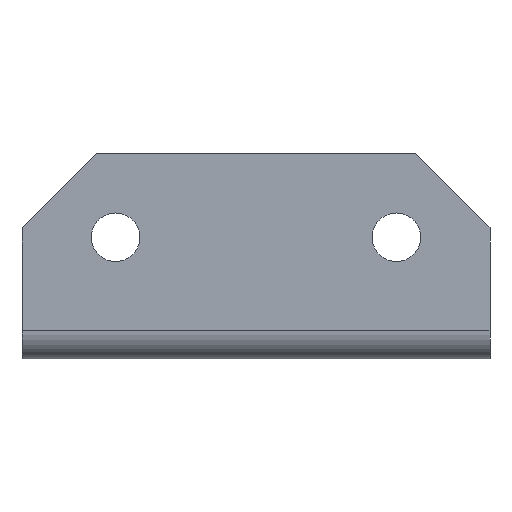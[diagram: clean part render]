
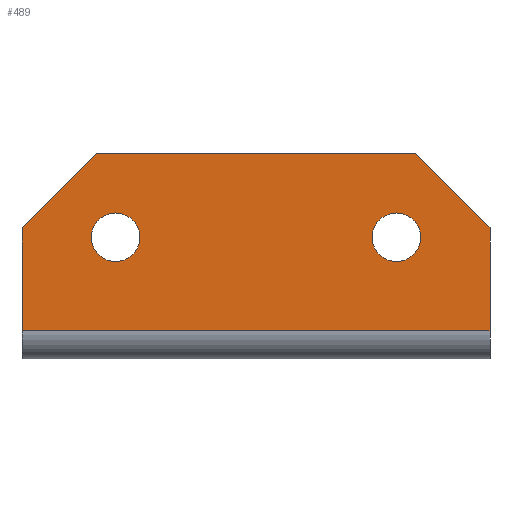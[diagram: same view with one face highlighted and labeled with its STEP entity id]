
A CAD part, front view. The second image highlights one B-rep face of the part: STEP entity #489.
In plain terms, the highlighted planar face has unit normal (0, -1, 0).
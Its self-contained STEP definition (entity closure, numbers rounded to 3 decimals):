
#5 = VECTOR ( 'NONE', #410, 1000. ) ;
#10 = VECTOR ( 'NONE', #405, 1000. ) ;
#14 = AXIS2_PLACEMENT_3D ( 'NONE', #211, #219, #210 ) ;
#29 = AXIS2_PLACEMENT_3D ( 'NONE', #292, #291, #449 ) ;
#73 = FACE_OUTER_BOUND ( 'NONE', #601, .T. ) ;
#77 = AXIS2_PLACEMENT_3D ( 'NONE', #222, #216, #214 ) ;
#79 = VECTOR ( 'NONE', #212, 1000. ) ;
#93 = AXIS2_PLACEMENT_3D ( 'NONE', #201, #170, #204 ) ;
#98 = FACE_BOUND ( 'NONE', #600, .T. ) ;
#99 = FACE_BOUND ( 'NONE', #595, .T. ) ;
#101 = VECTOR ( 'NONE', #409, 1000. ) ;
#107 = AXIS2_PLACEMENT_3D ( 'NONE', #320, #419, #420 ) ;
#108 = VECTOR ( 'NONE', #274, 1000. ) ;
#131 = VECTOR ( 'NONE', #163, 1000. ) ;
#162 = CARTESIAN_POINT ( 'NONE',  ( 42.5, 0., 55. ) ) ;
#163 = DIRECTION ( 'NONE',  ( -1., 0., 0. ) ) ;
#170 = DIRECTION ( 'NONE',  ( 0., -1., 0. ) ) ;
#201 = CARTESIAN_POINT ( 'NONE',  ( 62.5, 0., 0. ) ) ;
#203 = PLANE ( 'NONE',  #93 ) ;
#204 = DIRECTION ( 'NONE',  ( 0., 0., -1. ) ) ;
#205 = LINE ( 'NONE', #213, #79 ) ;
#210 = DIRECTION ( 'NONE',  ( 0., 0., -1. ) ) ;
#211 = CARTESIAN_POINT ( 'NONE',  ( 37.5, 0., 32.5 ) ) ;
#212 = DIRECTION ( 'NONE',  ( -0.707, 0., 0.707 ) ) ;
#213 = CARTESIAN_POINT ( 'NONE',  ( 80., 0., 17.5 ) ) ;
#214 = DIRECTION ( 'NONE',  ( 0., 0., -1. ) ) ;
#216 = DIRECTION ( 'NONE',  ( 0., -1., 0. ) ) ;
#219 = DIRECTION ( 'NONE',  ( 0., -1., 0. ) ) ;
#222 = CARTESIAN_POINT ( 'NONE',  ( -37.5, 0., 32.5 ) ) ;
#256 = CARTESIAN_POINT ( 'NONE',  ( 62.5, 0., 55. ) ) ;
#258 = LINE ( 'NONE', #256, #131 ) ;
#274 = DIRECTION ( 'NONE',  ( 0., 0., 1. ) ) ;
#275 = CARTESIAN_POINT ( 'NONE',  ( 62.5, 0., 0. ) ) ;
#276 = LINE ( 'NONE', #275, #108 ) ;
#281 = CARTESIAN_POINT ( 'NONE',  ( -62.5, 0., 0. ) ) ;
#291 = DIRECTION ( 'NONE',  ( 0., -1., 0. ) ) ;
#292 = CARTESIAN_POINT ( 'NONE',  ( 37.5, 0., 32.5 ) ) ;
#303 = CARTESIAN_POINT ( 'NONE',  ( 37.5, 0., 39. ) ) ;
#305 = CARTESIAN_POINT ( 'NONE',  ( -62.5, 0., 7.6 ) ) ;
#320 = CARTESIAN_POINT ( 'NONE',  ( -37.5, 0., 32.5 ) ) ;
#371 = CARTESIAN_POINT ( 'NONE',  ( -37.5, 0., 39. ) ) ;
#372 = CARTESIAN_POINT ( 'NONE',  ( -62.5, 0., 35. ) ) ;
#380 = CARTESIAN_POINT ( 'NONE',  ( 62.5, 0., 35. ) ) ;
#384 = CARTESIAN_POINT ( 'NONE',  ( -42.5, 0., 55. ) ) ;
#387 = CARTESIAN_POINT ( 'NONE',  ( -37.5, 0., 26. ) ) ;
#390 = CARTESIAN_POINT ( 'NONE',  ( 37.5, 0., 26. ) ) ;
#395 = CARTESIAN_POINT ( 'NONE',  ( 62.5, 0., 7.6 ) ) ;
#403 = CARTESIAN_POINT ( 'NONE',  ( 62.5, 0., 7.6 ) ) ;
#405 = DIRECTION ( 'NONE',  ( -1., 0., 0. ) ) ;
#407 = LINE ( 'NONE', #403, #10 ) ;
#409 = DIRECTION ( 'NONE',  ( 0., 0., 1. ) ) ;
#410 = DIRECTION ( 'NONE',  ( -0.707, 0., -0.707 ) ) ;
#411 = CARTESIAN_POINT ( 'NONE',  ( -17.5, 0., 80. ) ) ;
#414 = LINE ( 'NONE', #411, #5 ) ;
#417 = LINE ( 'NONE', #281, #101 ) ;
#419 = DIRECTION ( 'NONE',  ( 0., -1., 0. ) ) ;
#420 = DIRECTION ( 'NONE',  ( 0., 0., -1. ) ) ;
#449 = DIRECTION ( 'NONE',  ( 0., 0., -1. ) ) ;
#470 = CIRCLE ( 'NONE', #107, 6.5 ) ;
#481 = CIRCLE ( 'NONE', #77, 6.5 ) ;
#482 = CIRCLE ( 'NONE', #29, 6.5 ) ;
#487 = CIRCLE ( 'NONE', #14, 6.5 ) ;
#489 = ADVANCED_FACE ( 'NONE', ( #99, #73, #98 ), #203, .T. ) ;
#491 = EDGE_CURVE ( 'NONE', #666, #576, #205, .T. ) ;
#492 = EDGE_CURVE ( 'NONE', #664, #574, #487, .T. ) ;
#497 = EDGE_CURVE ( 'NONE', #663, #683, #481, .T. ) ;
#509 = EDGE_CURVE ( 'NONE', #576, #668, #258, .T. ) ;
#515 = EDGE_CURVE ( 'NONE', #579, #666, #276, .T. ) ;
#520 = EDGE_CURVE ( 'NONE', #574, #664, #482, .T. ) ;
#545 = EDGE_CURVE ( 'NONE', #683, #663, #470, .T. ) ;
#552 = EDGE_CURVE ( 'NONE', #703, #700, #417, .T. ) ;
#553 = EDGE_CURVE ( 'NONE', #668, #700, #414, .T. ) ;
#555 = EDGE_CURVE ( 'NONE', #579, #703, #407, .T. ) ;
#574 = VERTEX_POINT ( 'NONE', #303 ) ;
#576 = VERTEX_POINT ( 'NONE', #162 ) ;
#579 = VERTEX_POINT ( 'NONE', #395 ) ;
#595 = EDGE_LOOP ( 'NONE', ( #708, #707 ) ) ;
#600 = EDGE_LOOP ( 'NONE', ( #726, #717 ) ) ;
#601 = EDGE_LOOP ( 'NONE', ( #771, #748, #752, #777, #744, #780 ) ) ;
#663 = VERTEX_POINT ( 'NONE', #387 ) ;
#664 = VERTEX_POINT ( 'NONE', #390 ) ;
#666 = VERTEX_POINT ( 'NONE', #380 ) ;
#668 = VERTEX_POINT ( 'NONE', #384 ) ;
#683 = VERTEX_POINT ( 'NONE', #371 ) ;
#700 = VERTEX_POINT ( 'NONE', #372 ) ;
#703 = VERTEX_POINT ( 'NONE', #305 ) ;
#707 = ORIENTED_EDGE ( 'NONE', *, *, #492, .F. ) ;
#708 = ORIENTED_EDGE ( 'NONE', *, *, #520, .F. ) ;
#717 = ORIENTED_EDGE ( 'NONE', *, *, #497, .F. ) ;
#726 = ORIENTED_EDGE ( 'NONE', *, *, #545, .F. ) ;
#744 = ORIENTED_EDGE ( 'NONE', *, *, #552, .F. ) ;
#748 = ORIENTED_EDGE ( 'NONE', *, *, #491, .T. ) ;
#752 = ORIENTED_EDGE ( 'NONE', *, *, #509, .T. ) ;
#771 = ORIENTED_EDGE ( 'NONE', *, *, #515, .T. ) ;
#777 = ORIENTED_EDGE ( 'NONE', *, *, #553, .T. ) ;
#780 = ORIENTED_EDGE ( 'NONE', *, *, #555, .F. ) ;
